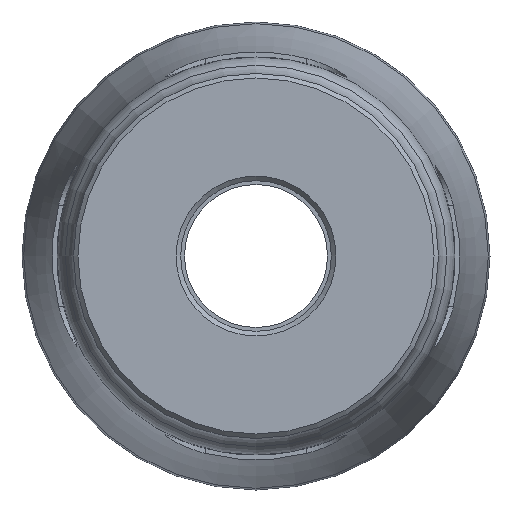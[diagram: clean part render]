
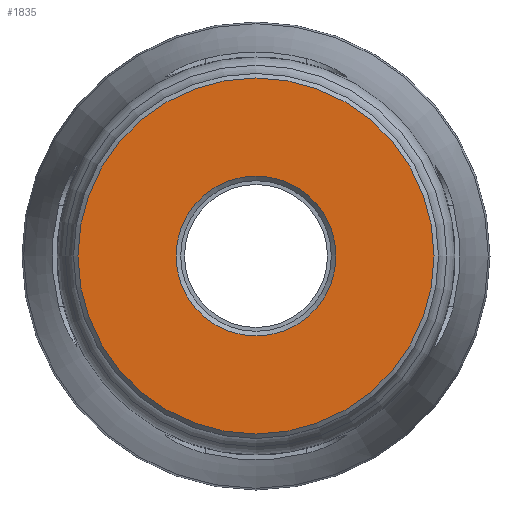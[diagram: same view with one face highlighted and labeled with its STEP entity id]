
A CAD part, left-side view. The second image highlights one B-rep face of the part: STEP entity #1835.
In plain terms, the highlighted planar face has unit normal (-1, 0, 0).
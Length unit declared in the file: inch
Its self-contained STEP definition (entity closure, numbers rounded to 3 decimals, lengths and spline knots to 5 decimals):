
#20=FACE_BOUND('',#401,.T.);
#39=PLANE('',#2009);
#295=FACE_OUTER_BOUND('',#400,.T.);
#400=EDGE_LOOP('',(#1246));
#401=EDGE_LOOP('',(#1247));
#534=CIRCLE('',#2006,0.38955);
#537=CIRCLE('',#2010,0.86719);
#734=VERTEX_POINT('',#3176);
#737=VERTEX_POINT('',#3184);
#930=EDGE_CURVE('',#734,#734,#534,.T.);
#934=EDGE_CURVE('',#737,#737,#537,.T.);
#1246=ORIENTED_EDGE('',*,*,#934,.F.);
#1247=ORIENTED_EDGE('',*,*,#930,.F.);
#1835=ADVANCED_FACE('',(#295,#20),#39,.T.);
#2006=AXIS2_PLACEMENT_3D('',#3177,#2321,#2322);
#2009=AXIS2_PLACEMENT_3D('',#3183,#2328,#2329);
#2010=AXIS2_PLACEMENT_3D('',#3185,#2330,#2331);
#2321=DIRECTION('center_axis',(-1.,0.,0.));
#2322=DIRECTION('ref_axis',(0.,-1.,0.));
#2328=DIRECTION('center_axis',(-1.,0.,0.));
#2329=DIRECTION('ref_axis',(0.,0.,1.));
#2330=DIRECTION('center_axis',(1.,0.,0.));
#2331=DIRECTION('ref_axis',(0.,-1.,0.));
#3176=CARTESIAN_POINT('',(0.,0.38955,0.));
#3177=CARTESIAN_POINT('Origin',(0.,0.,0.));
#3183=CARTESIAN_POINT('Origin',(0.,0.8892,0.));
#3184=CARTESIAN_POINT('',(0.,0.86719,0.));
#3185=CARTESIAN_POINT('Origin',(0.,0.,0.));
